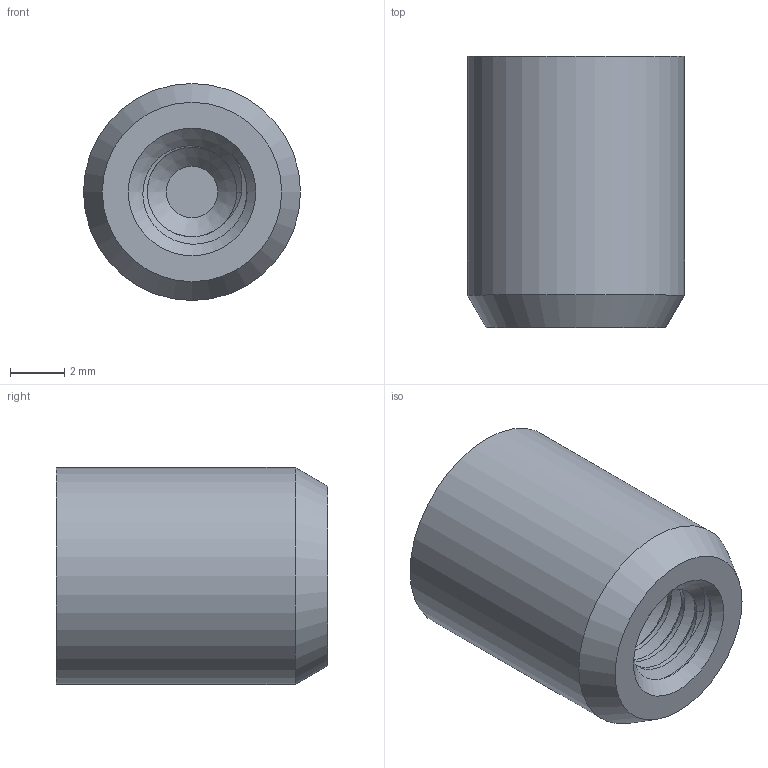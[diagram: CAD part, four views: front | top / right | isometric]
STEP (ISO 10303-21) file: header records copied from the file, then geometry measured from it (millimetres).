
FILE_DESCRIPTION (( 'STEP AP214' ), '1' );
FILE_NAME ('PET-8.STEP', '2018-10-09T18:02:42', ( '' ), ( '' ), 'SwSTEP 2.0', 'SolidWorks 2017', '' );
FILE_SCHEMA (( 'AUTOMOTIVE_DESIGN' ));
Length unit declared in the file: millimetre
Products named in the file (1): PET-8
Bounding box: 8 x 10 x 8 mm (x, y, z)
Volume: 412.2 mm3; surface area: 462.8 mm2
Topology: 1 solids, 1 shells, 111 faces, 301 edges, 200 vertices
Faces by surface type: plane 72, bspline 25, cylinder 10, cone 4
Full cylindrical faces by diameter (mm): 3.3 x8, 8 x1
Entity records: 4773 total; most frequent: CARTESIAN_POINT 2433, ORIENTED_EDGE 534, DIRECTION 356, EDGE_CURVE 267, VECTOR 186, LINE 186, VERTEX_POINT 180, EDGE_LOOP 115
